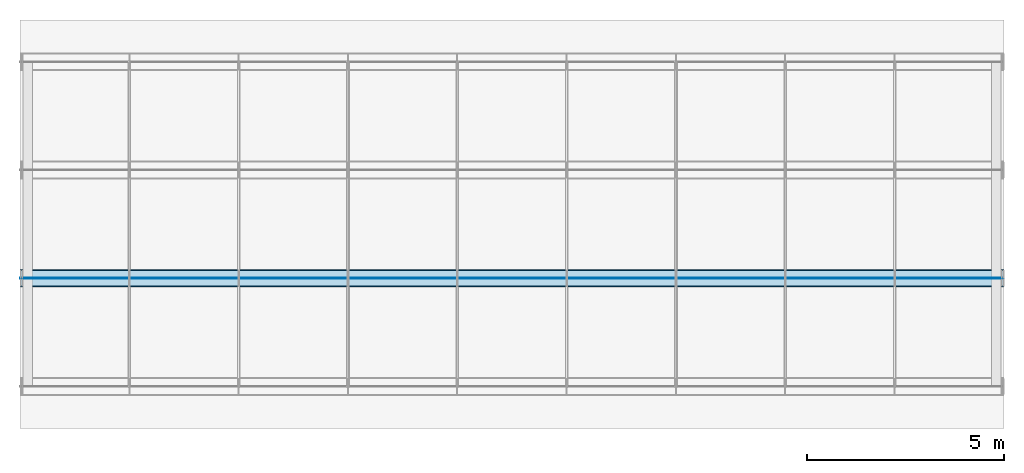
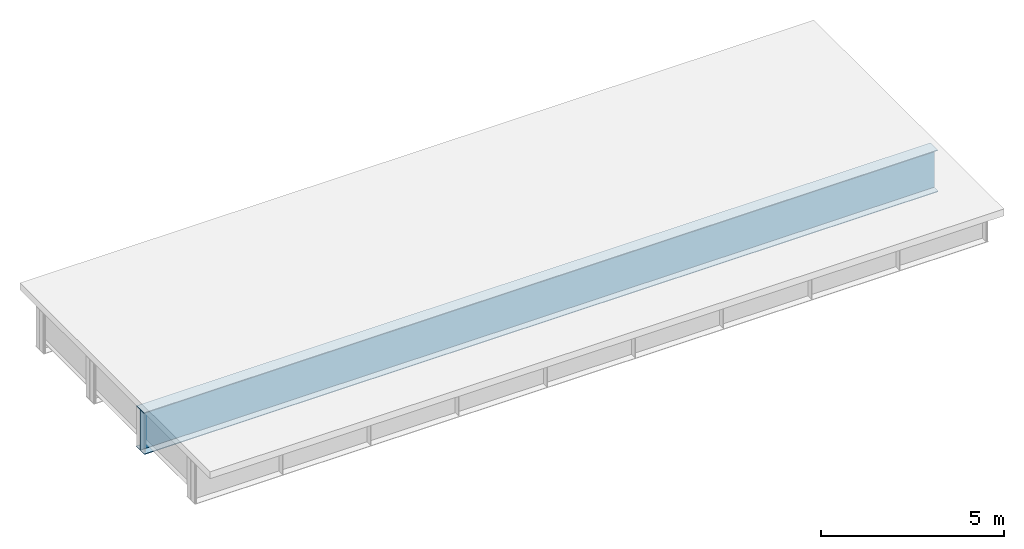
# One storey, part 5 of 10: 3 plates.
"""IFC4 building model written with IfcOpenShell, lengths in metres."""

from ifc_helpers import new_model, si_unit, frame, origin, origin_with_axes, origin_2d_with_axis, place, context, subcontext, project, spatial, rectangle, extrude, element, save


model = new_model("IFC4")

# Units and contexts
model_context = context("Model", 3, precision=1e-05, world=origin())
body_context = subcontext(model_context, "Body", "Model", "MODEL_VIEW")
ifc_project = project(units=[si_unit("LENGTHUNIT", "METRE"), si_unit("AREAUNIT", "SQUARE_METRE"), si_unit("VOLUMEUNIT", "CUBIC_METRE"), si_unit("PLANEANGLEUNIT", "RADIAN")], contexts=[model_context])

# Site, building, storey
site_placement = place(None, origin_with_axes())
site = spatial("IfcSite", under=ifc_project, at=site_placement, Name="Default Site")
building_placement = place(site_placement, origin_with_axes())
building = spatial("IfcBuilding", under=site, at=building_placement, Name="Bridge Structure")
storey_placement = place(building_placement, origin_with_axes())
storey = spatial("IfcBuildingStorey", under=building, at=storey_placement, Name="Superstructure")

# Plates
plate_1_placement = place(storey_placement, frame((0.0, -1.375, 0.0), z_axis=(1.0, 0.0, 0.0), x_axis=(0.0, 1.0, 0.0)))
element("IfcPlate", 1, at=plate_1_placement, inside=storey, Name="Girder Web 2", context=body_context, shape_type="SweptSolid", body=[
    extrude(rectangle(XDim=0.016, YDim=1.335, at=origin_2d_with_axis()), origin_with_axes(), (0.0, 0.0, 1.0), 25.0),
])
plate_2_placement = place(storey_placement, frame((0.0, -1.375, 0.6765), z_axis=(1.0, 0.0, 0.0), x_axis=(0.0, 1.0, 0.0)))
element("IfcPlate", 2, at=plate_2_placement, inside=storey, Name="Top Flange 2", context=body_context, shape_type="SweptSolid", body=[
    extrude(rectangle(XDim=0.4, YDim=0.018000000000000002, at=origin_2d_with_axis()), origin_with_axes(), (0.0, 0.0, 1.0), 25.0),
])
plate_3_placement = place(storey_placement, frame((0.0, -1.375, -0.6785), z_axis=(1.0, 0.0, 0.0), x_axis=(0.0, 1.0, 0.0)))
element("IfcPlate", 3, at=plate_3_placement, inside=storey, Name="Bottom Flange 2", context=body_context, shape_type="SweptSolid", body=[
    extrude(rectangle(XDim=0.45, YDim=0.022, at=origin_2d_with_axis()), origin_with_axes(), (0.0, 0.0, 1.0), 25.0),
])

save(model, "model.ifc")
